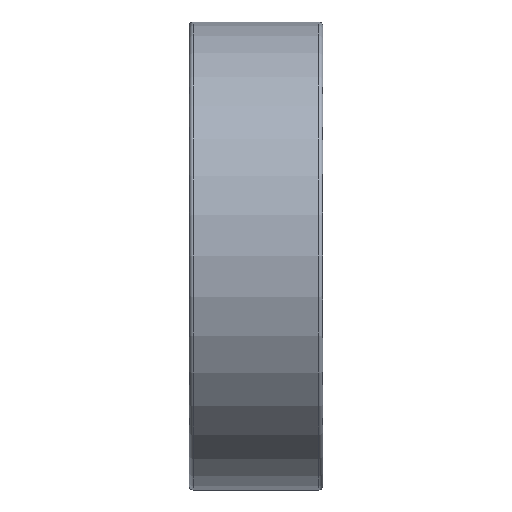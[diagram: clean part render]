
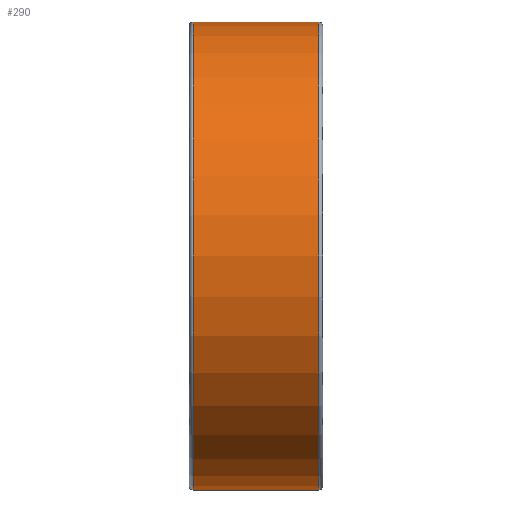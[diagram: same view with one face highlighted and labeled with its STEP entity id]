
A CAD part, front view. The second image highlights one B-rep face of the part: STEP entity #290.
In plain terms, the highlighted cylindrical face has radius 17.5 mm (diameter 35 mm), a full revolution.
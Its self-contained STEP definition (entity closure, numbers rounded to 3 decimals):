
#234=CYLINDRICAL_SURFACE('',#947,17.5);
#290=ADVANCED_FACE('',(#431,#432),#234,.T.);
#431=FACE_BOUND('',#559,.T.);
#432=FACE_BOUND('',#560,.T.);
#559=EDGE_LOOP('',(#683));
#560=EDGE_LOOP('',(#684));
#683=ORIENTED_EDGE('',*,*,#827,.T.);
#684=ORIENTED_EDGE('',*,*,#826,.F.);
#760=VERTEX_POINT('',#3039);
#761=VERTEX_POINT('',#3042);
#826=EDGE_CURVE('',#760,#760,#858,.T.);
#827=EDGE_CURVE('',#761,#761,#859,.T.);
#858=CIRCLE('',#944,17.5);
#859=CIRCLE('',#946,17.5);
#944=AXIS2_PLACEMENT_3D('',#3038,#1121,#1122);
#946=AXIS2_PLACEMENT_3D('',#3041,#1125,#1126);
#947=AXIS2_PLACEMENT_3D('',#3043,#1127,#1128);
#1121=DIRECTION('',(-1.,0.,0.));
#1122=DIRECTION('',(0.,0.,1.));
#1125=DIRECTION('',(-1.,0.,0.));
#1126=DIRECTION('',(0.,0.,1.));
#1127=DIRECTION('',(-1.,0.,0.));
#1128=DIRECTION('',(0.,0.,1.));
#3038=CARTESIAN_POINT('',(0.3,0.,0.));
#3039=CARTESIAN_POINT('',(0.3,0.,17.5));
#3041=CARTESIAN_POINT('',(9.7,0.,0.));
#3042=CARTESIAN_POINT('',(9.7,0.,17.5));
#3043=CARTESIAN_POINT('',(10.,0.,0.));
